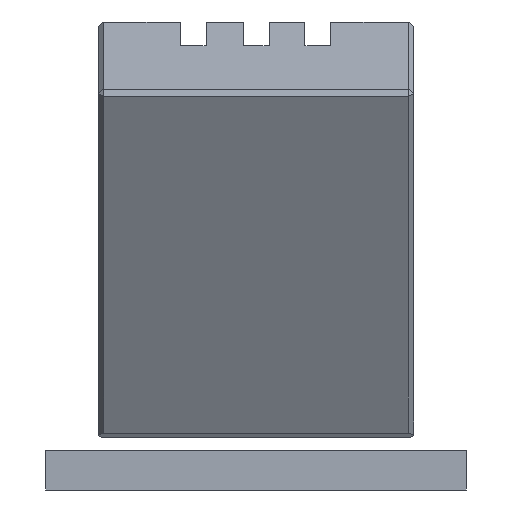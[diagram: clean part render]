
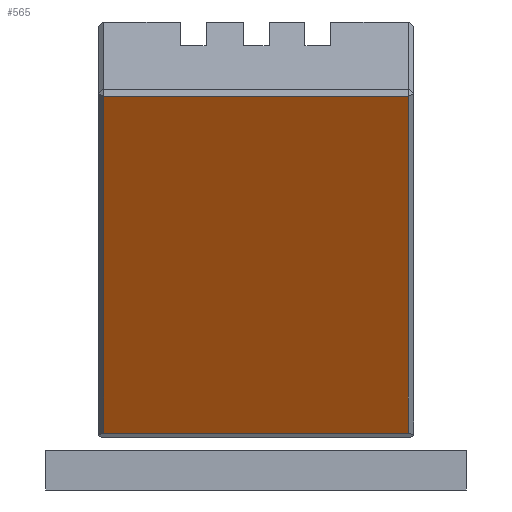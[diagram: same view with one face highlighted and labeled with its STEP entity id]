
A CAD part, left-side view. The second image highlights one B-rep face of the part: STEP entity #565.
In plain terms, the highlighted planar face has unit normal (-0.866, 0, -0.5) as drawn and (-1, 0, 0) by its records, which use the part's own axes.
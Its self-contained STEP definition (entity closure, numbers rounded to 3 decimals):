
#565 = ADVANCED_FACE('',(#566),#580,.T.);
#566 = FACE_BOUND('',#567,.T.);
#567 = EDGE_LOOP('',(#568,#603,#631,#659));
#568 = ORIENTED_EDGE('',*,*,#569,.T.);
#569 = EDGE_CURVE('',#570,#572,#574,.T.);
#570 = VERTEX_POINT('',#571);
#571 = CARTESIAN_POINT('',(0.,5.8,2.5));
#572 = VERTEX_POINT('',#573);
#573 = CARTESIAN_POINT('',(0.,-5.8,2.5));
#574 = SURFACE_CURVE('',#575,(#579,#591),.PCURVE_S1.);
#575 = LINE('',#576,#577);
#576 = CARTESIAN_POINT('',(0.,6.,2.5));
#577 = VECTOR('',#578,1.);
#578 = DIRECTION('',(0.,-1.,0.));
#579 = PCURVE('',#580,#585);
#580 = PLANE('',#581);
#581 = AXIS2_PLACEMENT_3D('',#582,#583,#584);
#582 = CARTESIAN_POINT('',(0.,0.,9.75));
#583 = DIRECTION('',(-1.,0.,0.));
#584 = DIRECTION('',(0.,0.,-1.));
#585 = DEFINITIONAL_REPRESENTATION('',(#586),#590);
#586 = LINE('',#587,#588);
#587 = CARTESIAN_POINT('',(7.25,-6.));
#588 = VECTOR('',#589,1.);
#589 = DIRECTION('',(0.,1.));
#590 = ( GEOMETRIC_REPRESENTATION_CONTEXT(2) 
PARAMETRIC_REPRESENTATION_CONTEXT() REPRESENTATION_CONTEXT('2D SPACE',''
  ) );
#591 = PCURVE('',#592,#597);
#592 = PLANE('',#593);
#593 = AXIS2_PLACEMENT_3D('',#594,#595,#596);
#594 = CARTESIAN_POINT('',(0.25,6.,2.25));
#595 = DIRECTION('',(-0.707,0.,-0.707));
#596 = DIRECTION('',(0.,1.,0.));
#597 = DEFINITIONAL_REPRESENTATION('',(#598),#602);
#598 = LINE('',#599,#600);
#599 = CARTESIAN_POINT('',(0.,-0.354));
#600 = VECTOR('',#601,1.);
#601 = DIRECTION('',(-1.,0.));
#602 = ( GEOMETRIC_REPRESENTATION_CONTEXT(2) 
PARAMETRIC_REPRESENTATION_CONTEXT() REPRESENTATION_CONTEXT('2D SPACE',''
  ) );
#603 = ORIENTED_EDGE('',*,*,#604,.T.);
#604 = EDGE_CURVE('',#572,#605,#607,.T.);
#605 = VERTEX_POINT('',#606);
#606 = CARTESIAN_POINT('',(0.,-5.8,17.3));
#607 = SURFACE_CURVE('',#608,(#612,#619),.PCURVE_S1.);
#608 = LINE('',#609,#610);
#609 = CARTESIAN_POINT('',(0.,-5.8,2.5));
#610 = VECTOR('',#611,1.);
#611 = DIRECTION('',(0.,0.,1.));
#612 = PCURVE('',#580,#613);
#613 = DEFINITIONAL_REPRESENTATION('',(#614),#618);
#614 = LINE('',#615,#616);
#615 = CARTESIAN_POINT('',(7.25,5.8));
#616 = VECTOR('',#617,1.);
#617 = DIRECTION('',(-1.,0.));
#618 = ( GEOMETRIC_REPRESENTATION_CONTEXT(2) 
PARAMETRIC_REPRESENTATION_CONTEXT() REPRESENTATION_CONTEXT('2D SPACE',''
  ) );
#619 = PCURVE('',#620,#625);
#620 = PLANE('',#621);
#621 = AXIS2_PLACEMENT_3D('',#622,#623,#624);
#622 = CARTESIAN_POINT('',(0.1,-5.9,2.5));
#623 = DIRECTION('',(-0.707,-0.707,0.));
#624 = DIRECTION('',(0.,0.,-1.));
#625 = DEFINITIONAL_REPRESENTATION('',(#626),#630);
#626 = LINE('',#627,#628);
#627 = CARTESIAN_POINT('',(0.,-0.141));
#628 = VECTOR('',#629,1.);
#629 = DIRECTION('',(-1.,0.));
#630 = ( GEOMETRIC_REPRESENTATION_CONTEXT(2) 
PARAMETRIC_REPRESENTATION_CONTEXT() REPRESENTATION_CONTEXT('2D SPACE',''
  ) );
#631 = ORIENTED_EDGE('',*,*,#632,.T.);
#632 = EDGE_CURVE('',#605,#633,#635,.T.);
#633 = VERTEX_POINT('',#634);
#634 = CARTESIAN_POINT('',(0.,5.8,17.3));
#635 = SURFACE_CURVE('',#636,(#640,#647),.PCURVE_S1.);
#636 = LINE('',#637,#638);
#637 = CARTESIAN_POINT('',(0.,-6.,17.3));
#638 = VECTOR('',#639,1.);
#639 = DIRECTION('',(0.,1.,0.));
#640 = PCURVE('',#580,#641);
#641 = DEFINITIONAL_REPRESENTATION('',(#642),#646);
#642 = LINE('',#643,#644);
#643 = CARTESIAN_POINT('',(-7.55,6.));
#644 = VECTOR('',#645,1.);
#645 = DIRECTION('',(0.,-1.));
#646 = ( GEOMETRIC_REPRESENTATION_CONTEXT(2) 
PARAMETRIC_REPRESENTATION_CONTEXT() REPRESENTATION_CONTEXT('2D SPACE',''
  ) );
#647 = PCURVE('',#648,#653);
#648 = PLANE('',#649);
#649 = AXIS2_PLACEMENT_3D('',#650,#651,#652);
#650 = CARTESIAN_POINT('',(0.1,-6.,17.4));
#651 = DIRECTION('',(-0.707,0.,0.707));
#652 = DIRECTION('',(0.,-1.,0.));
#653 = DEFINITIONAL_REPRESENTATION('',(#654),#658);
#654 = LINE('',#655,#656);
#655 = CARTESIAN_POINT('',(0.,-0.141));
#656 = VECTOR('',#657,1.);
#657 = DIRECTION('',(-1.,0.));
#658 = ( GEOMETRIC_REPRESENTATION_CONTEXT(2) 
PARAMETRIC_REPRESENTATION_CONTEXT() REPRESENTATION_CONTEXT('2D SPACE',''
  ) );
#659 = ORIENTED_EDGE('',*,*,#660,.T.);
#660 = EDGE_CURVE('',#633,#570,#661,.T.);
#661 = SURFACE_CURVE('',#662,(#666,#673),.PCURVE_S1.);
#662 = LINE('',#663,#664);
#663 = CARTESIAN_POINT('',(0.,5.8,17.5));
#664 = VECTOR('',#665,1.);
#665 = DIRECTION('',(0.,0.,-1.));
#666 = PCURVE('',#580,#667);
#667 = DEFINITIONAL_REPRESENTATION('',(#668),#672);
#668 = LINE('',#669,#670);
#669 = CARTESIAN_POINT('',(-7.75,-5.8));
#670 = VECTOR('',#671,1.);
#671 = DIRECTION('',(1.,0.));
#672 = ( GEOMETRIC_REPRESENTATION_CONTEXT(2) 
PARAMETRIC_REPRESENTATION_CONTEXT() REPRESENTATION_CONTEXT('2D SPACE',''
  ) );
#673 = PCURVE('',#674,#679);
#674 = PLANE('',#675);
#675 = AXIS2_PLACEMENT_3D('',#676,#677,#678);
#676 = CARTESIAN_POINT('',(0.1,5.9,17.5));
#677 = DIRECTION('',(-0.707,0.707,0.));
#678 = DIRECTION('',(0.,0.,1.));
#679 = DEFINITIONAL_REPRESENTATION('',(#680),#684);
#680 = LINE('',#681,#682);
#681 = CARTESIAN_POINT('',(0.,-0.141));
#682 = VECTOR('',#683,1.);
#683 = DIRECTION('',(-1.,0.));
#684 = ( GEOMETRIC_REPRESENTATION_CONTEXT(2) 
PARAMETRIC_REPRESENTATION_CONTEXT() REPRESENTATION_CONTEXT('2D SPACE',''
  ) );
